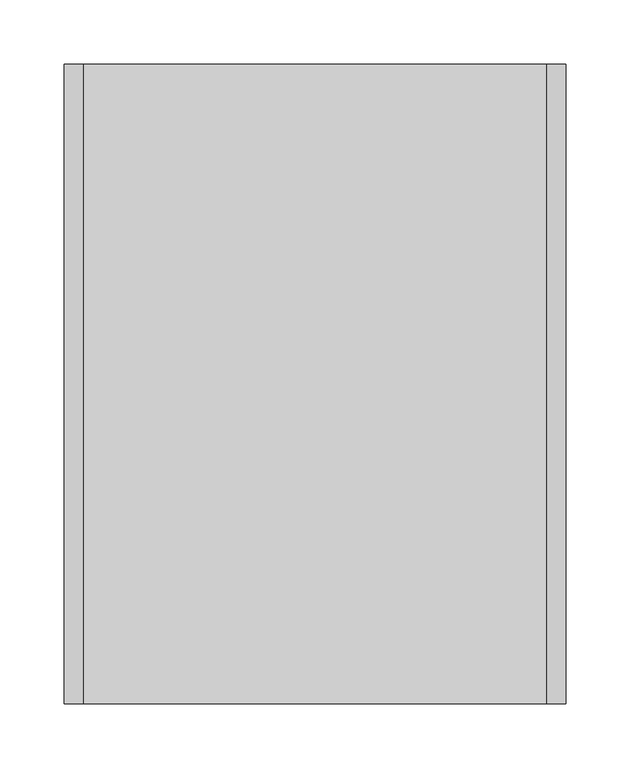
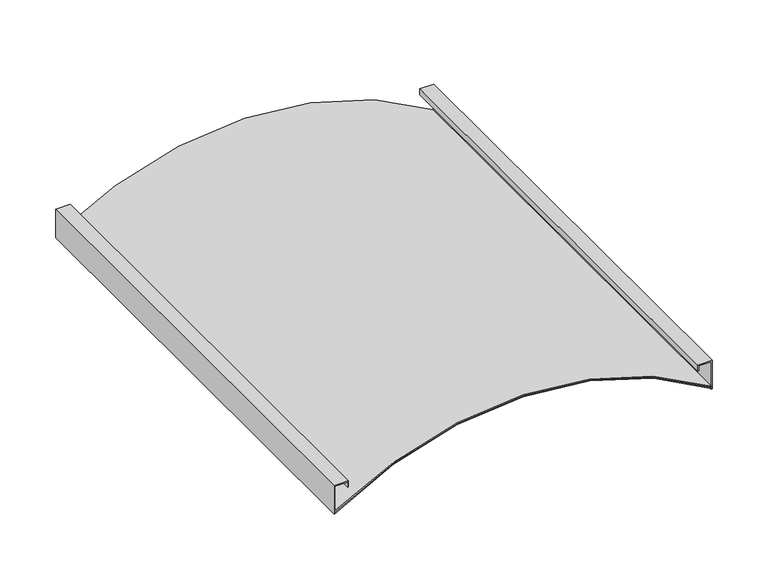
"""IFC4 building model written with IfcOpenShell, lengths in millimetres: proxy geometry, durlum_S7_DOMUS_ALT_panel : durlum_S7_DOMUS_panel_wall_corner."""

from ifc_helpers import new_model, si_unit, point, frame, frame_2d, origin, place, context, project, spatial, polyline, circle_curve, trimmed, segment, composite_curve, outline, extrude, source, transform, mapped, element, save


def generic_models_fe305517(model_context):
    return source(origin(), model_context, "Body", "SweptSolid", [
        extrude(outline(composite_curve([segment(trimmed(circle_curve(frame_2d((-290.1333333, 0.0)), 351.1333333), [point((1.876286, -195.0))], [point((1.876286, 195.0))], True, "CARTESIAN"), True, "CONTINUOUS"), segment(polyline([(1.876286, 195.0), (3.0779974, 195.0)]), True, "CONTINUOUS"), segment(trimmed(circle_curve(frame_2d((-290.1333333, 0.0)), 352.1333333), [point((3.0779974, 195.0))], [point((3.0779974, -195.0))], False, "CARTESIAN"), True, "CONTINUOUS"), segment(polyline([(3.0779974, -195.0), (1.876286, -195.0)]), True, "CONTINUOUS")], self_intersect=False)), frame((0.0, -249.75, 0.0), z_axis=(0.0, 1.0, 0.0), x_axis=(0.0, 0.0, 1.0)), (0.0, 0.0, 1.0), 499.5),
        extrude(outline(polyline([(31.0, -196.0), (0.0, -196.0), (0.0, -195.0), (30.0, -195.0), (30.0, -182.0), (24.5, -182.0), (24.5, -181.0), (31.0, -181.0), (31.0, -196.0)])), frame((0.0, -249.75, 0.0), z_axis=(0.0, 1.0, 0.0), x_axis=(0.0, 0.0, 1.0)), (0.0, 0.0, 1.0), 499.5),
        extrude(outline(polyline([(31.0, 196.0), (31.0, 181.0), (24.5, 181.0), (24.5, 182.0), (30.0, 182.0), (30.0, 195.0), (0.0, 195.0), (0.0, 196.0), (31.0, 196.0)])), frame((0.0, -249.75, 0.0), z_axis=(0.0, 1.0, 0.0), x_axis=(0.0, 0.0, 1.0)), (0.0, 0.0, 1.0), 499.5),
        extrude(outline(composite_curve([segment(polyline([(1.2060182, -196.0), (0.0, -196.0)]), True, "CONTINUOUS"), segment(trimmed(circle_curve(frame_2d((-290.1333333, 0.0)), 350.1333333), [point((0.0, -196.0))], [point((0.0, 196.0))], True, "CARTESIAN"), True, "CONTINUOUS"), segment(polyline([(0.0, 196.0), (1.2060182, 196.0)]), True, "CONTINUOUS"), segment(trimmed(circle_curve(frame_2d((-290.1333333, 0.0)), 351.1333333), [point((1.2060182, 196.0))], [point((1.2060182, -196.0))], False, "CARTESIAN"), True, "CONTINUOUS")], self_intersect=False)), frame((0.0, -249.75, 0.0), z_axis=(0.0, 1.0, 0.0), x_axis=(0.0, 0.0, 1.0)), (0.0, 0.0, 1.0), 499.5),
    ])


if __name__ == "__main__":
    model = new_model("IFC4")
    model_context = context("Model", 3, world=origin())
    ifc_project = project(units=[si_unit("LENGTHUNIT", "METRE", prefix="MILLI")], contexts=[model_context])
    site = spatial("IfcSite", under=ifc_project)
    building = spatial("IfcBuilding", under=site)
    placement = place(None, origin())
    generic_models_shape = generic_models_fe305517(model_context)
    element("IfcBuildingElementProxy", 1, Name="durlum_S7_DOMUS_ALT_panel : durlum_S7_DOMUS_panel_wall_corner", ObjectType="durlum_S7_DOMUS_ALT_panel : durlum_S7_DOMUS_panel_wall_corner", at=placement, inside=building, context=model_context, shape_type="MappedRepresentation", body=[
        mapped(generic_models_shape, transform((0.0, 0.0, 0.0), x_axis=(1.0, 0.0, 0.0), y_axis=(0.0, 1.0, 0.0), z_axis=(0.0, 0.0, 1.0))),
    ])
    save(model, "model.ifc")
